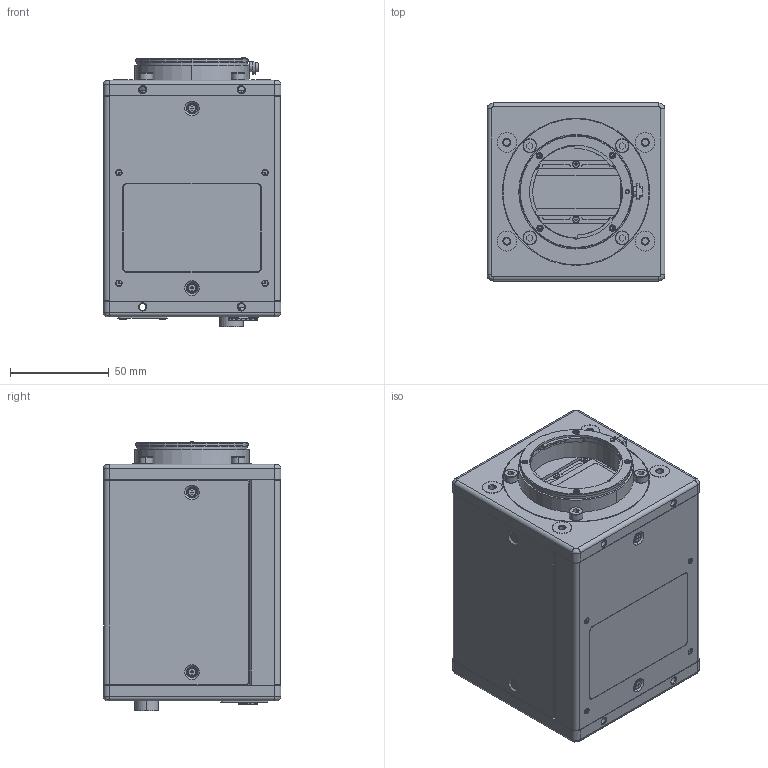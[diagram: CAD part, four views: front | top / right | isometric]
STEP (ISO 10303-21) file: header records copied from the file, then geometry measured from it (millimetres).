
FILE_DESCRIPTION((''),'2;1');
FILE_NAME('ASM0001_ASM','2019-10-10T',('aso'),(''),'CREO PARAMETRIC BY PTC INC, 2016260','CREO PARAMETRIC BY PTC INC, 2016260','');
FILE_SCHEMA(('CONFIG_CONTROL_DESIGN'));
Products named in the file (1): ASM0001_ASM
Bounding box: 90 x 90 x 136.61 mm (x, y, z)
Surface area: 145070.5 mm2 (no closed solid volume)
Topology: 0 solids, 22 shells, 3129 faces, 8447 edges, 5451 vertices
Faces by surface type: plane 1591, cylinder 1196, cone 189, torus 100, bspline 47, sphere 6
Entity records: 102753 total; most frequent: CARTESIAN_POINT 22675, DIRECTION 16879, ORIENTED_EDGE 16650, EDGE_CURVE 8403, AXIS2_PLACEMENT_3D 5866, VERTEX_POINT 5451, VECTOR 5147, LINE 5147
